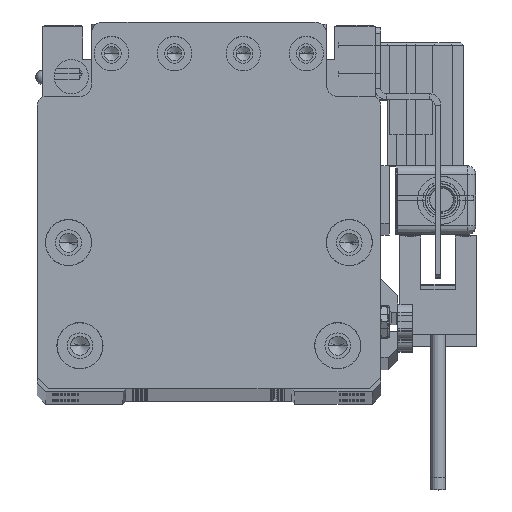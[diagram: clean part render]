
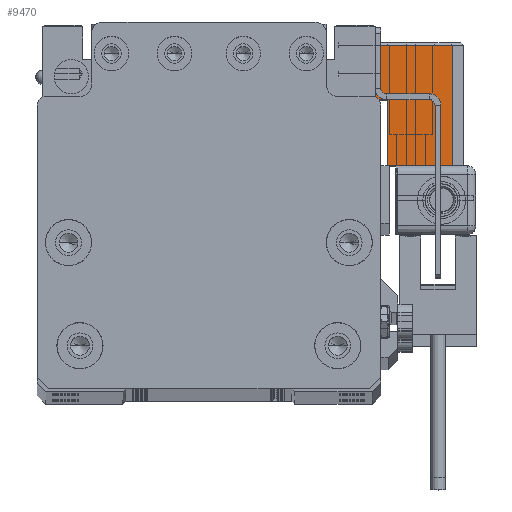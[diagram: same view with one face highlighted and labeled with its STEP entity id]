
A CAD part, top view. The second image highlights one B-rep face of the part: STEP entity #9470.
In plain terms, the highlighted planar face has unit normal (0, 0, 1) as drawn and (-1, 0, 0) by its records, which use the part's own axes.
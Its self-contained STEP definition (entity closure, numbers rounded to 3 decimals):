
#2167 = CARTESIAN_POINT ( 'NONE',  ( -17., 10.25, -2. ) ) ;
#5594 = CARTESIAN_POINT ( 'NONE',  ( -17., 10.25, -15.5 ) ) ;
#6081 = DIRECTION ( 'NONE',  ( 0., 0., 1. ) ) ;
#7463 = CARTESIAN_POINT ( 'NONE',  ( -17., -10.75, -15.5 ) ) ;
#7806 = DIRECTION ( 'NONE',  ( 0., -1., 0. ) ) ;
#8113 = VERTEX_POINT ( 'NONE', #60930 ) ;
#8608 = VERTEX_POINT ( 'NONE', #2167 ) ;
#9470 = ADVANCED_FACE ( 'NONE', ( #55615 ), #9846, .T. ) ;
#9544 = VECTOR ( 'NONE', #10818, 1000. ) ;
#9846 = PLANE ( 'NONE',  #58366 ) ;
#10610 = CARTESIAN_POINT ( 'NONE',  ( -17., 10.25, -15.5 ) ) ;
#10818 = DIRECTION ( 'NONE',  ( 0., 1., 0. ) ) ;
#12179 = CARTESIAN_POINT ( 'NONE',  ( -17., 0.75, -13.3 ) ) ;
#14305 = EDGE_LOOP ( 'NONE', ( #53961, #61596, #23681, #47001, #58888, #50260 ) ) ;
#16022 = DIRECTION ( 'NONE',  ( 0., 0., 1. ) ) ;
#17375 = DIRECTION ( 'NONE',  ( 0., -1., 0. ) ) ;
#17951 = VERTEX_POINT ( 'NONE', #10610 ) ;
#19954 = DIRECTION ( 'NONE',  ( -1., 0., 0. ) ) ;
#23681 = ORIENTED_EDGE ( 'NONE', *, *, #60250, .T. ) ;
#24013 = VERTEX_POINT ( 'NONE', #52471 ) ;
#24477 = EDGE_CURVE ( 'NONE', #8113, #24013, #30920, .T. ) ;
#27127 = LINE ( 'NONE', #57933, #53195 ) ;
#27630 = EDGE_CURVE ( 'NONE', #39508, #8113, #57954, .T. ) ;
#29336 = VECTOR ( 'NONE', #7806, 1000. ) ;
#29743 = LINE ( 'NONE', #7463, #29336 ) ;
#30920 = LINE ( 'NONE', #40099, #62401 ) ;
#33449 = EDGE_CURVE ( 'NONE', #24013, #8608, #51056, .T. ) ;
#39508 = VERTEX_POINT ( 'NONE', #12179 ) ;
#39917 = VECTOR ( 'NONE', #17375, 1000. ) ;
#39998 = VECTOR ( 'NONE', #41202, 1000. ) ;
#40099 = CARTESIAN_POINT ( 'NONE',  ( -17., -10.75, -15.5 ) ) ;
#41202 = DIRECTION ( 'NONE',  ( 0., 0., -1. ) ) ;
#42945 = EDGE_CURVE ( 'NONE', #8608, #17951, #44856, .T. ) ;
#44775 = VERTEX_POINT ( 'NONE', #63571 ) ;
#44856 = LINE ( 'NONE', #5594, #39998 ) ;
#46821 = CARTESIAN_POINT ( 'NONE',  ( -17., -10.75, -13.3 ) ) ;
#47001 = ORIENTED_EDGE ( 'NONE', *, *, #57050, .T. ) ;
#50260 = ORIENTED_EDGE ( 'NONE', *, *, #24477, .T. ) ;
#51056 = LINE ( 'NONE', #60878, #9544 ) ;
#52471 = CARTESIAN_POINT ( 'NONE',  ( -17., -10.75, -2. ) ) ;
#53195 = VECTOR ( 'NONE', #57268, 1000. ) ;
#53961 = ORIENTED_EDGE ( 'NONE', *, *, #33449, .T. ) ;
#55301 = CARTESIAN_POINT ( 'NONE',  ( -17., -10.75, -15.5 ) ) ;
#55615 = FACE_OUTER_BOUND ( 'NONE', #14305, .T. ) ;
#57050 = EDGE_CURVE ( 'NONE', #44775, #39508, #27127, .T. ) ;
#57268 = DIRECTION ( 'NONE',  ( 0., 0., 1. ) ) ;
#57933 = CARTESIAN_POINT ( 'NONE',  ( -17., 0.75, -15.5 ) ) ;
#57954 = LINE ( 'NONE', #46821, #39917 ) ;
#58366 = AXIS2_PLACEMENT_3D ( 'NONE', #55301, #19954, #16022 ) ;
#58888 = ORIENTED_EDGE ( 'NONE', *, *, #27630, .T. ) ;
#60250 = EDGE_CURVE ( 'NONE', #17951, #44775, #29743, .T. ) ;
#60878 = CARTESIAN_POINT ( 'NONE',  ( -17., 10.75, -2. ) ) ;
#60930 = CARTESIAN_POINT ( 'NONE',  ( -17., -10.75, -13.3 ) ) ;
#61596 = ORIENTED_EDGE ( 'NONE', *, *, #42945, .T. ) ;
#62401 = VECTOR ( 'NONE', #6081, 1000. ) ;
#63571 = CARTESIAN_POINT ( 'NONE',  ( -17., 0.75, -15.5 ) ) ;
